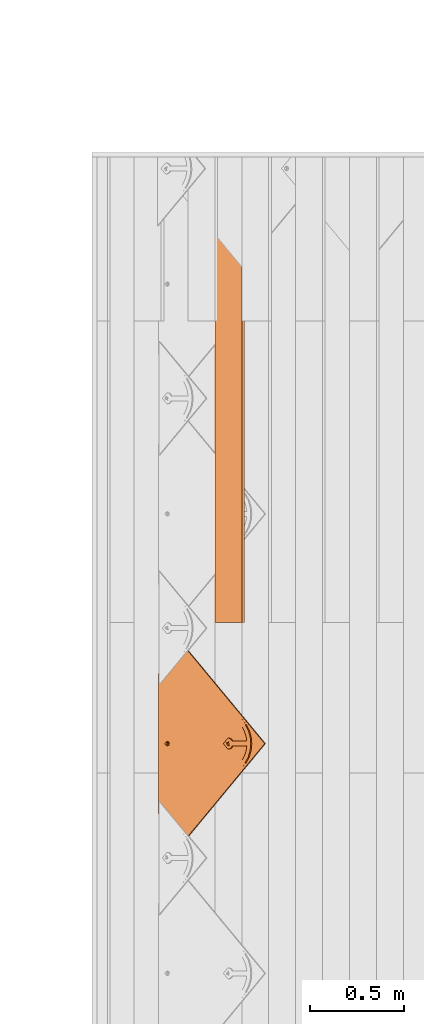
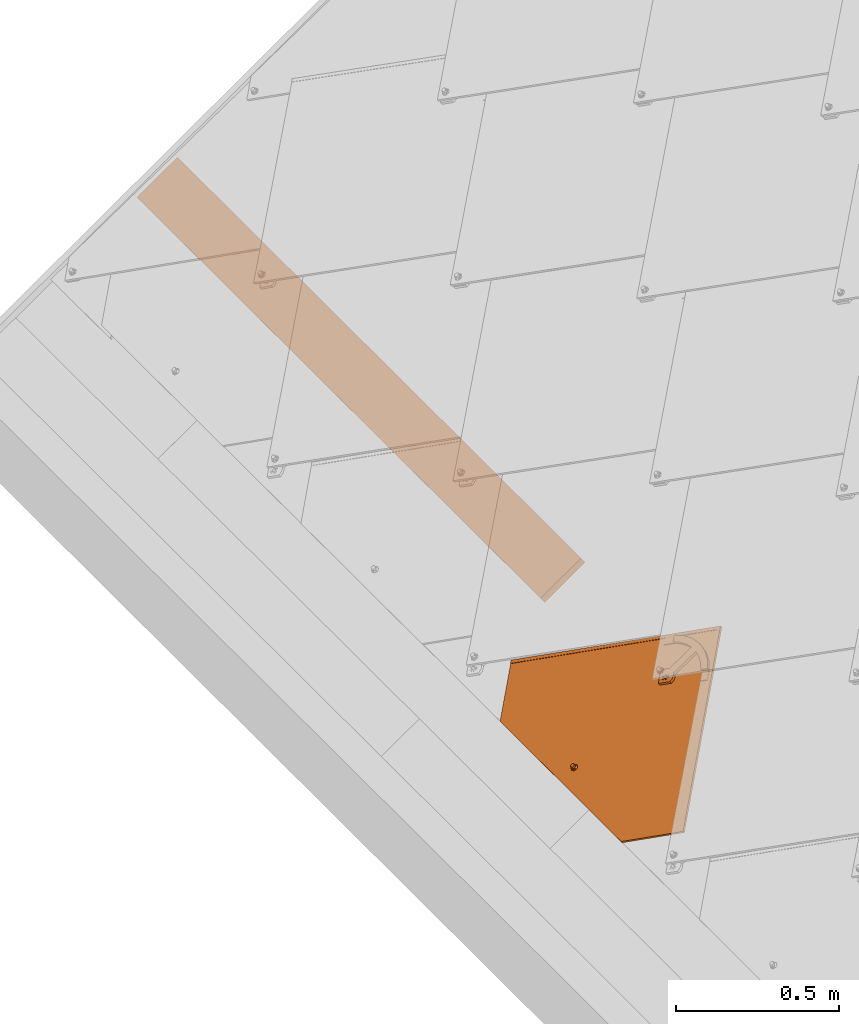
# One storey, part 50 of 133: 2 proxies, 1 element without a shape of its own.
"""IFC2X3 building model written with IfcOpenShell, lengths in millimetres."""

from ifc_helpers import new_model, entity, si_unit, converted_unit, derived_unit, direction, frame, frame_2d, origin, place, context, subcontext, project, spatial, rectangle, extrude, faceted_brep, source, transform, mapped, material, material_list, type_object, type_shapes, element, aggregate, save


model = new_model("IFC2X3")

# Units and contexts
model_context = context("Model", 3, precision=0.01, world=origin(), true_north=direction((6.12303176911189e-17, 1.0)))
body_context = subcontext(model_context, "Body", "Model", "MODEL_VIEW")
ifc_project = project(units=[si_unit("LENGTHUNIT", "METRE", prefix="MILLI"), si_unit("AREAUNIT", "SQUARE_METRE"), si_unit("VOLUMEUNIT", "CUBIC_METRE"), converted_unit("PLANEANGLEUNIT", "DEGREE", entity("IfcRatioMeasure", 0.0174532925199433), si_unit("PLANEANGLEUNIT", "RADIAN"), dimensions=[0, 0, 0, 0, 0, 0, 0]), si_unit("MASSUNIT", "GRAM", prefix="KILO"), derived_unit("MASSDENSITYUNIT", [(si_unit("MASSUNIT", "GRAM", prefix="KILO"), 1), (si_unit("LENGTHUNIT", "METRE"), -3)]), si_unit("TIMEUNIT", "SECOND"), si_unit("FREQUENCYUNIT", "HERTZ"), si_unit("THERMODYNAMICTEMPERATUREUNIT", "DEGREE_CELSIUS"), derived_unit("THERMALTRANSMITTANCEUNIT", [(si_unit("MASSUNIT", "GRAM", prefix="KILO"), 1), (si_unit("THERMODYNAMICTEMPERATUREUNIT", "KELVIN"), -1), (si_unit("TIMEUNIT", "SECOND"), -3)]), derived_unit("VOLUMETRICFLOWRATEUNIT", [(si_unit("LENGTHUNIT", "METRE"), 3), (si_unit("TIMEUNIT", "SECOND"), -1)]), si_unit("ELECTRICCURRENTUNIT", "AMPERE"), si_unit("ELECTRICVOLTAGEUNIT", "VOLT"), si_unit("POWERUNIT", "WATT"), si_unit("FORCEUNIT", "NEWTON", prefix="KILO"), si_unit("ILLUMINANCEUNIT", "LUX"), si_unit("LUMINOUSFLUXUNIT", "LUMEN"), si_unit("LUMINOUSINTENSITYUNIT", "CANDELA"), derived_unit("USERDEFINED", [(si_unit("MASSUNIT", "GRAM", prefix="KILO"), -1), (si_unit("LENGTHUNIT", "METRE"), -2), (si_unit("TIMEUNIT", "SECOND"), 3), (si_unit("LUMINOUSFLUXUNIT", "LUMEN"), 1)]), derived_unit("LINEARVELOCITYUNIT", [(si_unit("LENGTHUNIT", "METRE"), 1), (si_unit("TIMEUNIT", "SECOND"), -1)]), si_unit("PRESSUREUNIT", "PASCAL"), derived_unit("USERDEFINED", [(si_unit("LENGTHUNIT", "METRE"), -2), (si_unit("MASSUNIT", "GRAM", prefix="KILO"), 1), (si_unit("TIMEUNIT", "SECOND"), -2)])], contexts=[model_context])

# Site, building, storey
site_placement = place(None, origin())
site = spatial("IfcSite", under=ifc_project, at=site_placement, Name="Default", CompositionType="ELEMENT")
building_placement = place(site_placement, origin())
building = spatial("IfcBuilding", under=site, at=building_placement, CompositionType="ELEMENT")
storey_placement = place(building_placement, origin())
storey = spatial("IfcBuildingStorey", under=building, at=storey_placement, Name="Level 1", CompositionType="ELEMENT", Elevation=0.0)

# Assembly, proxy
assembly_placement = place(storey_placement, origin())
assembly = element("IfcElementAssembly", 1, at=assembly_placement, inside=storey, Name="Structural Framing Assembly:Roof Construction Assembly", ObjectType="Structural Framing Assembly:Roof Construction Assembly", AssemblyPlace="NOTDEFINED", PredefinedType="USERDEFINED")
ifc_material_1 = material(Name="Wood - Generic - Wood For Showcase")
building_element_proxy_type_1 = type_object("IfcBuildingElementProxyType", Name="Structural Framing 15", PredefinedType="NOTDEFINED", material=ifc_material_1)
shared_shape_1 = source(origin(), body_context, "Body", "SweptSolid", [
    extrude(rectangle(XDim=24.9999999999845, YDim=174.344679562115, at=frame_2d((-1.77635683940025e-13, -4.54747350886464e-13), x_axis=(0.0, 1.0))), frame((1128.20180147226, 1455.55080214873, 2760.23940055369), z_axis=(0.0, 1.0, 0.0), x_axis=(-0.819152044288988, 0.0, -0.573576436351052)), (0.0, 0.0, 1.0), 2469.99999999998),
])
type_shapes(building_element_proxy_type_1, [shared_shape_1])
proxy_1_placement = place(assembly_placement, frame((-3141.92561483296, 0.0, -2200.0)))
proxy_1 = element("IfcBuildingElementProxy", 2, at=proxy_1_placement, type_object=building_element_proxy_type_1, material=ifc_material_1, Name="Structural Framing 125:Structural Framing 15", ObjectType="Structural Framing 125:Structural Framing 15", context=body_context, shape_type="MappedRepresentation", body=[
    mapped(shared_shape_1, transform((0.0, 0.0, 0.0), scale=1.0)),
])
aggregate(assembly, [proxy_1])

# Proxy
ifc_material_2 = material(Name="Rubber - Sunstyle - Black")
ifc_material_3 = material(Name="Glass - Sunstyle - Tainted Black")
ifc_material_list_1 = material_list([ifc_material_2, ifc_material_3])
ifc_material_list_2 = material_list([ifc_material_2, ifc_material_3])
building_element_proxy_type_2 = type_object("IfcBuildingElementProxyType", Name="Shingle Bottom - Black", PredefinedType="NOTDEFINED", material=ifc_material_list_2)
shared_shape_2 = source(origin(), body_context, "Body", "Brep", [
    faceted_brep([(0.0, -1.79273515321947, -4.01619789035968), (-5.7742028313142, -5.12600528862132, -3.96037390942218), (-5.77420283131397, -4.75769619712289, 18.0314954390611), (0.0, -1.42442606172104, 17.9756714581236), (-5.77420283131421, -11.792545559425, -3.84872594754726), (-5.77420283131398, -11.4242364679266, 18.143143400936), (0.0, -15.1258156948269, -3.79290196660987), (0.0, -14.7575066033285, 18.1989673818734), (5.77420283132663, -11.7925455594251, -3.84872594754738), (5.77420283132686, -11.4242364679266, 18.1431434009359), (5.77420283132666, -5.12600528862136, -3.96037390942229), (5.77420283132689, -4.75769619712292, 18.031495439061), (-8.60370416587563, -16.6934641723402, 18.2313898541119), (0.0, -20.2567354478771, 18.2910657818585), (-12.1674751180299, -8.09096633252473, 18.0873194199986), (-8.60370416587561, 0.511531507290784, 17.9432489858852), (0.0, 4.07480278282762, 17.8835730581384), (8.60370416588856, 0.511531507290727, 17.9432489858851), (12.1674751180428, -8.09096633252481, 18.0873194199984), (8.60370416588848, -16.6934641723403, 18.2313898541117), (-11.4302228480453, -6.71737066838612, 20.4858706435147), (-9.77051349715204, -8.02009729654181, 22.3189355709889), (0.0, -0.706876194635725, 22.9603444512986), (0.0, 0.533621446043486, 22.3799978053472), (0.0, 2.69117229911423, 21.3706227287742), (-6.32324569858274, -4.35709193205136, 23.021476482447), (-6.32324569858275, -11.6575234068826, 23.1437405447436), (0.0, -18.7571148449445, 21.7298281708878), (0.0, -15.3077391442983, 23.2048725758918), (10.9851748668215, -11.808022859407, 20.3827540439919), (10.123850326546, -8.02413622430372, 22.0777687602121), (6.32324569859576, -4.3570919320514, 23.0214764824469), (6.32324569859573, -11.6575234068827, 23.1437405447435), (-6.32324569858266, -11.5234949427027, 31.146628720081), (0.0, -15.1737106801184, 31.2077607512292), (0.0, -7.8732792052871, 31.0854966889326), (-6.32324569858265, -4.22306346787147, 31.0243646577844), (6.32324569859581, -11.5234949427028, 31.1466287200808), (6.32324569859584, -4.22306346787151, 31.0243646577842), (0.0, -0.57284773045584, 30.963232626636), (0.0, -8.45927542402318, -3.90454992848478)], [[[0, 1, 2, 3]], [[1, 4, 5, 2]], [[4, 6, 7, 5]], [[6, 8, 9, 7]], [[8, 10, 11, 9]], [[10, 0, 3, 11]], [[12, 7, 13]], [[7, 12, 5]], [[14, 5, 12]], [[5, 14, 2]], [[15, 2, 14]], [[3, 2, 15]], [[15, 16, 3]], [[16, 17, 3]], [[11, 3, 17]], [[11, 17, 18]], [[9, 11, 18]], [[18, 19, 9]], [[7, 9, 19]], [[19, 13, 7]], [[15, 20, 16]], [[21, 22, 23, 24]], [[22, 21, 25]], [[20, 14, 12]], [[15, 14, 20]], [[25, 21, 26]], [[20, 24, 16]], [[12, 13, 27]], [[12, 27, 20]], [[21, 28, 26]], [[21, 27, 28]], [[20, 21, 24]], [[20, 27, 21]], [[19, 29, 13]], [[30, 23, 31]], [[30, 28, 27]], [[24, 23, 30]], [[29, 27, 13]], [[19, 18, 29]], [[29, 30, 27]], [[29, 17, 24]], [[24, 17, 16]], [[31, 32, 30]], [[23, 22, 31]], [[28, 30, 32]], [[29, 24, 30]], [[29, 18, 17]], [[33, 34, 35]], [[35, 36, 33]], [[34, 37, 35]], [[38, 35, 37]], [[35, 38, 39]], [[35, 39, 36]], [[40, 6, 4]], [[4, 1, 40]], [[1, 0, 40]], [[40, 8, 6]], [[0, 10, 40]], [[8, 40, 10]], [[22, 25, 36, 39]], [[25, 26, 33, 36]], [[26, 28, 34, 33]], [[28, 32, 37, 34]], [[32, 31, 38, 37]], [[31, 22, 39, 38]]]),
    faceted_brep([(0.0, 372.824876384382, 20.3195200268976), (0.0, 377.324245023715, 20.2441667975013), (-8.60370416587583, 376.388147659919, 20.2598440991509), (8.60370416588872, 376.388147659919, 20.2598440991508), (6.64022859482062, 381.157445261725, 20.1799702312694), (12.1674751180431, 384.990645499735, 20.1157736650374), (6.64022859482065, 388.823845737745, 20.0515770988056), (8.6037041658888, 393.59314333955, 19.9717032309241), (0.0, 392.657045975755, 19.9873805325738), (0.0, 397.156414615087, 19.9120273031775), (-8.60370416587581, 393.59314333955, 19.9717032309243), (-6.64022859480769, 388.823845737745, 20.0515770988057), (-12.1674751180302, 384.990645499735, 20.1157736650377), (-6.6402285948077, 381.157445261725, 20.1799702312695), (-6.6402282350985, 388.555922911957, 4.05382046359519), (0.0, 392.389122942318, 3.98962390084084), (-6.64022823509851, 380.889522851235, 4.18221358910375), (0.0, 377.056322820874, 4.24641015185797), (6.64022823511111, 380.889522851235, 4.18221358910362), (6.64022823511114, 388.555922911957, 4.05382046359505), (-8.603704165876, 376.12022504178, 4.26208746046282), (0.0, 372.556953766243, 4.32176338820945), (-12.1674751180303, 384.722722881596, 4.11801702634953), (-8.60370416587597, 393.325220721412, 3.97394659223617), (0.0, 396.888491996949, 3.91427066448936), (8.60370416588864, 393.325220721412, 3.97394659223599), (12.1674751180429, 384.722722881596, 4.11801702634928), (8.60370416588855, 376.12022504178, 4.26208746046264)], [[[0, 1, 2]], [[1, 0, 3]], [[3, 4, 1]], [[4, 3, 5]], [[6, 4, 5]], [[5, 7, 6]], [[7, 8, 6]], [[8, 7, 9]], [[8, 9, 10]], [[10, 11, 8]], [[12, 11, 10]], [[2, 13, 12]], [[12, 13, 11]], [[13, 2, 1]], [[8, 11, 14, 15]], [[11, 13, 16, 14]], [[13, 1, 17, 16]], [[1, 4, 18, 17]], [[4, 6, 19, 18]], [[6, 8, 15, 19]], [[20, 17, 21]], [[17, 20, 16]], [[22, 16, 20]], [[14, 16, 22]], [[23, 14, 22]], [[15, 14, 23]], [[23, 24, 15]], [[24, 25, 15]], [[19, 15, 25]], [[19, 25, 26]], [[26, 18, 19]], [[26, 27, 18]], [[17, 18, 27]], [[27, 21, 17]], [[24, 23, 10, 9]], [[10, 23, 22, 12]], [[20, 21, 0, 2]], [[20, 2, 12, 22]], [[21, 27, 3, 0]], [[3, 27, 26, 5]], [[25, 24, 9, 7]], [[25, 7, 5, 26]]]),
    faceted_brep([(518.247351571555, 79.9143812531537, 14.965257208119), (526.732038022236, 88.3990677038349, 14.8231598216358), (526.732038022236, 88.4241854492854, 16.3229495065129), (518.247351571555, 79.9394989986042, 16.4650468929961), (0.000322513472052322, 598.016093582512, 6.28834266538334), (-518.246706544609, 79.9143812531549, 14.9652572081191), (-526.73139299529, 88.3990677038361, 14.8231598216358), (0.000322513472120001, 614.983087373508, 6.00418773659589), (0.000322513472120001, 615.008205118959, 7.50397742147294), (-526.731392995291, 88.4241854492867, 16.3229495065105), (-518.246706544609, 79.9394989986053, 16.465046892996), (0.000322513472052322, 598.041211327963, 7.78813235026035)], [[[0, 1, 2, 3]], [[1, 0, 4, 5, 6, 7]], [[2, 1, 7, 8]], [[3, 2, 8, 9, 10, 11]], [[0, 3, 11, 4]], [[5, 10, 9, 6]], [[8, 7, 6, 9]], [[4, 11, 10, 5]]]),
    faceted_brep([(0.00032251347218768, 614.983087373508, 6.00418773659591), (-2.87802047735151, 396.187349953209, 9.66847193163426), (0.227808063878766, 396.596182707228, 9.6616250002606), (-5.77219193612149, 394.988712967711, 9.68854611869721), (3.3336366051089, 396.187349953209, 9.66847193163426), (6.22780806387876, 394.988712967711, 9.6885461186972), (8.71308943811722, 393.081956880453, 9.72047953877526), (10.620112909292, 390.59702396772, 9.76209598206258), (-8.25747331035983, 393.081956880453, 9.72047953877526), (-10.1644967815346, 390.59702396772, 9.76209598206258), (-11.3633018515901, 387.703258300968, 9.81055935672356), (-526.731392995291, 88.3990677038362, 14.8231598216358), (11.8189179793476, 387.703258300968, 9.81055935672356), (526.732038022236, 88.3990677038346, 14.8231598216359), (-11.7721919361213, 384.597865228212, 9.86256696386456), (-11.3633018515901, 381.492472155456, 9.91457457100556), (-10.1644967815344, 378.598706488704, 9.96303794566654), (-370.355016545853, -67.9334607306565, 17.4413406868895), (-8.25747331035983, 376.113773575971, 10.0046543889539), (-5.65685424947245, -2.29422365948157, 16.3420467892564), (-6.92820323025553, -3.95084560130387, 16.3697910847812), (-7.72740661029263, -5.88002271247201, 16.4021000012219), (-8.0, -7.95028476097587, 16.4367717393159), (-7.72740661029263, -10.0205468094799, 16.4714434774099), (-6.9282032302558, -11.9497239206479, 16.5037523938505), (-5.65685424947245, -13.6063458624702, 16.5314966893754), (-4.0, -14.8775165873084, 16.5527856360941), (-2.07055236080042, -15.676607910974, 16.5661684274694), (0.0, -15.9491630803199, 16.5707330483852), (370.355661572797, -67.9334607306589, 17.4413406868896), (10.620112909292, 378.598706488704, 9.96303794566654), (8.71308943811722, 376.11377357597, 10.0046543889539), (5.65685424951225, -2.29422365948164, 16.3420467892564), (6.92820323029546, -3.9508456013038, 16.3697910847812), (7.72740661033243, -5.88002271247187, 16.4021000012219), (8.0, -7.9502847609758, 16.4367717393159), (7.72740661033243, -10.0205468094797, 16.4714434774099), (6.92820323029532, -11.9497239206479, 16.5037523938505), (5.65685424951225, -13.6063458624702, 16.5314966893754), (4.0, -14.8775165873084, 16.5527856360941), (2.07055236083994, -15.676607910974, 16.5661684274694), (-5.77219193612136, 374.207017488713, 10.0365878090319), (-4.0, -1.02305293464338, 16.3207578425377), (-2.87802047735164, 373.008380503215, 10.0566619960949), (-2.07055236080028, -0.223961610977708, 16.3073750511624), (0.227808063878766, 372.599547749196, 10.0635089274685), (0.0, 0.0485935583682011, 16.3028104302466), (2.07055236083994, -0.223961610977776, 16.3073750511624), (3.3336366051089, 373.008380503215, 10.0566619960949), (4.0, -1.02305293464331, 16.3207578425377), (6.22780806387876, 374.207017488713, 10.0365878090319), (12.2278080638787, 384.597865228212, 9.86256696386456), (11.8189179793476, 381.492472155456, 9.91457457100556), (-370.355016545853, -68.059049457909, 9.94239226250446), (-6.92820323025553, -4.07643432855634, 8.87084266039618), (-7.72740661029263, -6.00561143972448, 8.90315157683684), (-8.0, -8.07587348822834, 8.93782331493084), (-7.72740661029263, -10.1461355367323, 8.97249505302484), (-6.9282032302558, -12.0753126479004, 9.00480396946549), (-5.65685424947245, -13.7319345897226, 9.03254826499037), (-5.65685424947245, -2.41981238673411, 8.8430983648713), (-8.25747331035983, 375.988184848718, 2.50570596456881), (-4.0, -15.0031053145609, 9.05383721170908), (-2.07055236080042, -15.8021966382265, 9.06722000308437), (0.0, -16.0747518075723, 9.07178462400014), (370.355661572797, -68.0590494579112, 9.9423922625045), (-10.1644967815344, 378.473117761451, 2.46408952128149), (-526.731392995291, 88.2734789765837, 7.32421139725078), (-11.3633018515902, 381.366883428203, 2.41562614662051), (-11.7721919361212, 384.472276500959, 2.36361853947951), (-11.3633018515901, 387.577669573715, 2.3116109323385), (0.00032251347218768, 614.857498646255, -1.49476068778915), (-10.1644967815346, 390.471435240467, 2.26314755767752), (-8.25747331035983, 392.956368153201, 2.22153111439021), (-5.77219193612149, 394.863124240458, 2.18959769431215), (-2.87802047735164, 396.061761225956, 2.16952350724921), (0.227808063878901, 396.470593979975, 2.16267657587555), (3.3336366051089, 396.061761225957, 2.1695235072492), (6.22780806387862, 394.863124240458, 2.18959769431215), (8.71308943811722, 392.956368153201, 2.2215311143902), (10.620112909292, 390.471435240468, 2.26314755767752), (11.8189179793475, 387.577669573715, 2.31161093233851), (526.732038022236, 88.2734789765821, 7.32421139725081), (12.2278080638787, 384.472276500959, 2.3636185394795), (10.620112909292, 378.473117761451, 2.46408952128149), (11.8189179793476, 381.366883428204, 2.41562614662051), (-5.77219193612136, 374.08142876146, 2.53763938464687), (-4.0, -1.14864166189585, 8.8218094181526), (-2.87802047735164, 372.882791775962, 2.55771357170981), (-2.07055236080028, -0.349550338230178, 8.8084266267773), (0.227808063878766, 372.473959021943, 2.56456050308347), (0.0, -0.0769951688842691, 8.80386200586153), (2.07055236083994, -0.349550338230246, 8.8084266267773), (3.3336366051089, 372.882791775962, 2.55771357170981), (4.0, -1.14864166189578, 8.8218094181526), (6.22780806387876, 374.081428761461, 2.53763938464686), (5.65685424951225, -2.41981238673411, 8.8430983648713), (8.71308943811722, 375.988184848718, 2.50570596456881), (6.92820323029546, -4.07643432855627, 8.87084266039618), (7.72740661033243, -6.00561143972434, 8.90315157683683), (8.0, -8.07587348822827, 8.93782331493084), (7.72740661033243, -10.1461355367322, 8.97249505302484), (6.92820323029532, -12.0753126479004, 9.00480396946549), (5.65685424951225, -13.7319345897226, 9.03254826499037), (4.0, -15.0031053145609, 9.05383721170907), (2.07055236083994, -15.8021966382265, 9.06722000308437)], [[[0, 1, 2]], [[1, 0, 3]], [[0, 2, 4]], [[4, 5, 0]], [[5, 6, 0]], [[0, 6, 7]], [[8, 3, 0]], [[9, 8, 0]], [[9, 0, 10]], [[10, 0, 11]], [[12, 0, 7]], [[12, 13, 0]], [[11, 14, 10]], [[14, 11, 15]], [[16, 15, 11]], [[11, 17, 16]], [[16, 17, 18]], [[19, 18, 17]], [[19, 17, 20]], [[20, 17, 21]], [[22, 21, 17]], [[22, 17, 23]], [[24, 23, 17]], [[17, 25, 24]], [[26, 25, 17]], [[27, 26, 17]], [[17, 28, 27]], [[28, 17, 29]], [[29, 13, 30]], [[29, 30, 31]], [[29, 31, 32]], [[32, 33, 29]], [[33, 34, 29]], [[35, 29, 34]], [[29, 35, 36]], [[36, 37, 29]], [[29, 37, 38]], [[38, 39, 29]], [[40, 28, 29]], [[39, 40, 29]], [[41, 18, 19]], [[42, 41, 19]], [[42, 43, 41]], [[44, 43, 42]], [[44, 45, 43]], [[46, 45, 44]], [[47, 45, 46]], [[48, 45, 47]], [[49, 48, 47]], [[49, 50, 48]], [[32, 50, 49]], [[32, 31, 50]], [[12, 51, 13]], [[52, 13, 51]], [[13, 52, 30]], [[53, 54, 55]], [[53, 55, 56]], [[56, 57, 53]], [[57, 58, 53]], [[53, 58, 59]], [[60, 54, 53]], [[61, 60, 53]], [[59, 62, 53]], [[62, 63, 53]], [[63, 64, 53]], [[53, 64, 65]], [[66, 61, 53]], [[66, 53, 67]], [[68, 66, 67]], [[69, 68, 67]], [[69, 67, 70]], [[67, 71, 70]], [[72, 70, 71]], [[73, 72, 71]], [[71, 74, 73]], [[74, 71, 75]], [[75, 71, 76]], [[77, 76, 71]], [[77, 71, 78]], [[79, 78, 71]], [[71, 80, 79]], [[80, 71, 81]], [[71, 82, 81]], [[83, 81, 82]], [[84, 82, 65]], [[85, 82, 84]], [[82, 85, 83]], [[86, 60, 61]], [[86, 87, 60]], [[88, 87, 86]], [[89, 87, 88]], [[90, 89, 88]], [[90, 91, 89]], [[92, 91, 90]], [[92, 90, 93]], [[94, 92, 93]], [[93, 95, 94]], [[94, 95, 96]], [[97, 96, 95]], [[96, 97, 65]], [[84, 65, 97]], [[98, 96, 65]], [[99, 98, 65]], [[99, 65, 100]], [[101, 100, 65]], [[102, 101, 65]], [[103, 102, 65]], [[104, 103, 65]], [[105, 104, 65]], [[65, 64, 105]], [[11, 0, 71, 67]], [[17, 11, 67, 53]], [[13, 29, 65, 82]], [[0, 13, 82, 71]], [[22, 56, 55, 21]], [[21, 55, 54, 20]], [[42, 19, 60, 87]], [[60, 19, 20, 54]], [[44, 42, 87, 89]], [[44, 89, 91, 46]], [[46, 91, 92, 47]], [[47, 92, 94, 49]], [[33, 32, 96, 98]], [[96, 32, 49, 94]], [[34, 33, 98, 99]], [[34, 99, 100, 35]], [[35, 100, 101, 36]], [[36, 101, 102, 37]], [[39, 38, 103, 104]], [[103, 38, 37, 102]], [[40, 39, 104, 105]], [[40, 105, 64, 28]], [[28, 64, 63, 27]], [[27, 63, 62, 26]], [[24, 25, 59, 58]], [[59, 25, 26, 62]], [[23, 24, 58, 57]], [[23, 57, 56, 22]], [[14, 69, 70, 10]], [[10, 70, 72, 9]], [[3, 8, 73, 74]], [[73, 8, 9, 72]], [[1, 3, 74, 75]], [[1, 75, 76, 2]], [[2, 76, 77, 4]], [[4, 77, 78, 5]], [[7, 6, 79, 80]], [[79, 6, 5, 78]], [[12, 7, 80, 81]], [[12, 81, 83, 51]], [[51, 83, 85, 52]], [[52, 85, 84, 30]], [[50, 31, 97, 95]], [[97, 31, 30, 84]], [[48, 50, 95, 93]], [[48, 93, 90, 45]], [[45, 90, 88, 43]], [[43, 88, 86, 41]], [[16, 18, 61, 66]], [[41, 86, 61, 18]], [[68, 15, 16, 66]], [[15, 68, 69, 14]], [[29, 17, 53, 65]]]),
    faceted_brep([(-111.269043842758, 451.472531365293, 11.2429332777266), (-84.9443960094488, 477.793488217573, 10.8021227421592), (-102.027571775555, 494.874268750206, 10.5160621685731), (-108.279973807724, 489.512620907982, 10.6058564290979), (-114.2509690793, 483.839345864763, 10.7008696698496), (-128.946713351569, 469.147722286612, 10.9469178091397), (128.946713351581, 469.147722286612, 10.9469178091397), (114.250969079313, 483.839345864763, 10.7008696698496), (108.279973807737, 489.512620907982, 10.6058564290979), (102.027571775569, 494.874268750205, 10.5160621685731), (84.9431983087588, 477.794685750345, 10.802102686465), (111.269043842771, 451.472531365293, 11.2429332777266), (-8.48528137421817, 393.302959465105, 19.7181805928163), (-18.7041061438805, 407.484939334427, 19.4806677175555), (-23.2046504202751, 402.851933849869, 19.5582590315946), (-10.3923048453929, 390.818026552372, 19.7597970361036), (-6.0, 395.209715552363, 19.6862471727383), (-13.2999999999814, 411.02298750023, 19.4214142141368), (-3.10582854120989, 396.408352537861, 19.6661729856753), (0.0, 396.81718529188, 19.6593260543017), (13.3000000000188, 411.022987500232, 19.4214142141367), (3.10582854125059, 396.408352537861, 19.6661729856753), (6.0, 395.209715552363, 19.6862471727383), (18.7041061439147, 407.484939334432, 19.4806677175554), (8.48528137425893, 393.302959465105, 19.7181805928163), (23.2046504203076, 402.85193384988, 19.5582590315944), (10.3923048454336, 390.818026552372, 19.7597970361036), (26.5842195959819, 397.347783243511, 19.6504398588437), (11.5911099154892, 387.92426088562, 19.8082604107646), (28.6795527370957, 391.238383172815, 19.752757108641), (12.0, 384.818867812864, 19.8602680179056), (29.3894280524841, 384.818867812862, 19.8602680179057), (11.5911099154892, 381.713474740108, 19.9122756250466), (10.3923048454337, 378.819709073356, 19.9607389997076), (8.48528137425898, 376.334776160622, 20.0023554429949), (0.0, 355.433560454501, 20.3523987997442), (6.0, 374.428020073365, 20.034288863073), (3.10582854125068, 373.229383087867, 20.0543630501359), (0.0, 372.820550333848, 20.0612099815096), (-3.10582854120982, 373.229383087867, 20.0543630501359), (-6.0, 374.428020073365, 20.034288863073), (-8.48528137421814, 376.334776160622, 20.0023554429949), (-29.3894280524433, 384.818867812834, 19.8602680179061), (-10.3923048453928, 378.819709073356, 19.9607389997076), (-11.5911099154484, 381.713474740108, 19.9122756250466), (-12.0, 384.818867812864, 19.8602680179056), (-28.67955273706, 391.238383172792, 19.7527571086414), (-11.5911099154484, 387.92426088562, 19.8082604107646), (-26.5842195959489, 397.347783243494, 19.650439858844), (-13.2999999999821, 505.810987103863, 17.833951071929), (13.3000000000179, 505.810987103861, 17.833951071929), (0.0, 531.282600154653, 17.4073649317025), (36.4908407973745, 527.108634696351, 17.4772684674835), (38.7697427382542, 500.996106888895, 17.9145883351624), (71.096085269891, 514.802420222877, 17.6833669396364), (62.9243331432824, 491.592473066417, 18.0720758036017), (102.027571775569, 494.999857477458, 18.0150105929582), (84.9443960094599, 477.919076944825, 18.3010711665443), (-36.4908407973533, 527.108634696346, 17.4772684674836), (-38.7697427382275, 500.996106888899, 17.9145883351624), (-71.0960852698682, 514.802420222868, 17.6833669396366), (-62.9243331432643, 491.592473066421, 18.0720758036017), (-102.027571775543, 494.999857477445, 18.0150105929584), (-84.9443960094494, 477.919076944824, 18.3010711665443), (0.0, 355.266108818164, 10.3538009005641), (0.0, 372.653098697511, 10.0626120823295), (3.10582854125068, 373.06193145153, 10.0557651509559), (-3.10582854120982, 373.06193145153, 10.0557651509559), (6.0, 374.260568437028, 10.0356909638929), (8.48528137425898, 376.167324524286, 10.0037575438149), (29.3894280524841, 384.651416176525, 9.86167011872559), (-6.0, 374.260568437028, 10.0356909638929), (-8.48528137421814, 376.167324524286, 10.0037575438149), (-29.3894280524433, 384.651416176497, 9.86167011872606), (-10.3923048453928, 378.652257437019, 9.96214110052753), (-11.5911099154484, 381.546023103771, 9.91367772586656), (-12.0, 384.651416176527, 9.86167011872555), (-28.67955273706, 391.070931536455, 9.75415920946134), (-11.5911099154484, 387.756809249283, 9.80966251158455), (-26.5842195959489, 397.180331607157, 9.65184195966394), (-10.3923048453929, 390.650574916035, 9.76119913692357), (-23.2046504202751, 402.684482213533, 9.5596611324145), (-8.48528137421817, 393.135507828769, 9.71958269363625), (-18.7041061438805, 407.31748769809, 9.48206981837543), (-6.0, 395.042263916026, 9.6876492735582), (-13.2999999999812, 410.855535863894, 9.4228163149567), (-3.10582854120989, 396.240900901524, 9.66757508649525), (0.0, 396.649733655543, 9.66072815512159), (13.3000000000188, 410.855535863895, 9.42281631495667), (-13.2999999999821, 505.643535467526, 7.83535317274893), (13.3000000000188, 505.643535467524, 7.83535317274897), (0.0, 531.115148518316, 7.4087670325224), (-36.4908407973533, 526.94118306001, 7.47867056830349), (-38.7697427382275, 500.828655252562, 7.91599043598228), (-71.0960852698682, 514.634968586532, 7.68476904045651), (-62.9243331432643, 491.425021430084, 8.07347790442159), (-102.027571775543, 494.832405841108, 8.01641269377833), (-84.9431983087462, 477.752822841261, 8.30245321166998), (-108.279973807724, 489.470757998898, 8.10620695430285), (-114.2509690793, 483.79748295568, 8.2012201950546), (-111.269043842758, 451.430668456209, 8.74328380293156), (-128.946713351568, 469.105859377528, 8.44726833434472), (36.4908407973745, 526.941183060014, 7.47867056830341), (38.7697427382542, 500.828655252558, 7.91599043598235), (71.096085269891, 514.634968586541, 7.68476904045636), (62.9243331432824, 491.425021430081, 8.07347790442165), (102.027571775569, 494.832405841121, 8.01641269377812), (84.9443960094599, 477.751625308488, 8.30247326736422), (108.279973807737, 489.470757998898, 8.10620695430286), (114.250969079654, 483.797482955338, 8.20122019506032), (111.269043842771, 451.430668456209, 8.74328380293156), (128.946713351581, 469.105859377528, 8.44726833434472), (3.10582854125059, 396.240900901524, 9.66757508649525), (6.0, 395.042263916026, 9.6876492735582), (18.7041061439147, 407.317487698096, 9.48206981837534), (8.48528137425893, 393.135507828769, 9.71958269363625), (23.2046504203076, 402.684482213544, 9.55966113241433), (10.3923048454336, 390.650574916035, 9.76119913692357), (26.5842195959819, 397.180331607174, 9.65184195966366), (11.5911099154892, 387.756809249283, 9.80966251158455), (28.6795527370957, 391.070931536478, 9.75415920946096), (12.0, 384.651416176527, 9.86167011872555), (11.5911099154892, 381.546023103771, 9.91367772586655), (10.3923048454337, 378.652257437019, 9.96214110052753)], [[[0, 1, 2, 3, 4, 5]], [[6, 7, 8, 9, 10, 11]], [[12, 13, 14]], [[15, 12, 14]], [[16, 13, 12]], [[13, 16, 17]], [[17, 16, 18]], [[18, 19, 17]], [[20, 17, 19]], [[19, 21, 20]], [[22, 20, 21]], [[22, 23, 20]], [[22, 24, 23]], [[25, 23, 24]], [[26, 25, 24]], [[25, 26, 27]], [[26, 28, 27]], [[29, 27, 28]], [[28, 30, 29]], [[31, 29, 30]], [[30, 32, 31]], [[32, 33, 31]], [[31, 33, 34]], [[34, 35, 31]], [[34, 36, 35]], [[37, 35, 36]], [[38, 35, 37]], [[35, 38, 39]], [[40, 35, 39]], [[40, 41, 35]], [[42, 35, 41]], [[43, 42, 41]], [[43, 44, 42]], [[44, 45, 42]], [[45, 46, 42]], [[46, 45, 47]], [[48, 46, 47]], [[47, 15, 48]], [[48, 15, 14]], [[20, 49, 17]], [[49, 20, 50]], [[51, 49, 50]], [[50, 52, 51]], [[53, 52, 50]], [[52, 53, 54]], [[55, 54, 53]], [[54, 55, 56]], [[55, 57, 56]], [[58, 49, 51]], [[49, 58, 59]], [[60, 59, 58]], [[60, 61, 59]], [[61, 60, 62]], [[61, 62, 63]], [[64, 65, 66]], [[65, 64, 67]], [[64, 66, 68]], [[68, 69, 64]], [[64, 69, 70]], [[71, 67, 64]], [[71, 64, 72]], [[72, 64, 73]], [[73, 74, 72]], [[74, 73, 75]], [[76, 75, 73]], [[77, 76, 73]], [[76, 77, 78]], [[78, 77, 79]], [[80, 78, 79]], [[81, 80, 79]], [[82, 80, 81]], [[81, 83, 82]], [[83, 84, 82]], [[84, 83, 85]], [[85, 86, 84]], [[87, 86, 85]], [[87, 85, 88]], [[88, 85, 89]], [[88, 89, 90]], [[89, 91, 90]], [[91, 89, 92]], [[93, 92, 89]], [[94, 92, 93]], [[93, 95, 94]], [[95, 96, 94]], [[97, 96, 95]], [[98, 96, 97]], [[99, 98, 97]], [[97, 100, 99]], [[101, 99, 100]], [[102, 90, 91]], [[90, 102, 103]], [[104, 103, 102]], [[103, 104, 105]], [[105, 104, 106]], [[107, 105, 106]], [[107, 106, 108]], [[109, 107, 108]], [[110, 107, 109]], [[111, 110, 109]], [[87, 88, 112]], [[113, 112, 88]], [[114, 113, 88]], [[115, 113, 114]], [[115, 114, 116]], [[116, 117, 115]], [[116, 118, 117]], [[117, 118, 119]], [[119, 118, 120]], [[121, 119, 120]], [[120, 70, 121]], [[122, 121, 70]], [[70, 69, 123]], [[123, 122, 70]], [[17, 49, 89, 85]], [[13, 17, 85, 83]], [[14, 13, 83, 81]], [[81, 79, 48, 14]], [[46, 48, 79, 77]], [[42, 46, 77, 73]], [[35, 42, 73, 64]], [[31, 35, 64, 70]], [[29, 31, 70, 120]], [[27, 29, 120, 118]], [[118, 116, 25, 27]], [[23, 25, 116, 114]], [[20, 23, 114, 88]], [[50, 20, 88, 90]], [[9, 106, 104, 54, 56]], [[52, 54, 104, 102]], [[51, 52, 102, 91]], [[58, 51, 91, 92]], [[94, 96, 2, 62, 60]], [[60, 58, 92, 94]], [[45, 76, 78, 47]], [[47, 78, 80, 15]], [[16, 12, 82, 84]], [[80, 82, 12, 15]], [[18, 16, 84, 86]], [[87, 19, 18, 86]], [[21, 112, 113, 22]], [[22, 113, 115, 24]], [[28, 26, 117, 119]], [[115, 117, 26, 24]], [[30, 28, 119, 121]], [[21, 19, 87, 112]], [[30, 121, 122, 32]], [[32, 122, 123, 33]], [[36, 34, 69, 68]], [[123, 69, 34, 33]], [[37, 36, 68, 66]], [[65, 38, 37, 66]], [[39, 67, 71, 40]], [[40, 71, 72, 41]], [[44, 43, 74, 75]], [[72, 74, 43, 41]], [[45, 44, 75, 76]], [[39, 38, 65, 67]], [[7, 6, 111, 109]], [[6, 11, 110, 111]], [[7, 109, 108, 8]], [[108, 106, 9, 8]], [[11, 10, 107, 110]], [[0, 5, 101, 100]], [[1, 0, 100, 97]], [[2, 96, 98, 3]], [[98, 99, 4, 3]], [[5, 4, 99, 101]], [[63, 62, 2, 1]], [[56, 57, 10]], [[10, 9, 56]], [[1, 95, 61, 63]], [[1, 97, 95]], [[93, 89, 49, 59]], [[95, 93, 59, 61]], [[90, 103, 53, 50]], [[103, 105, 55, 53]], [[10, 57, 55]], [[107, 10, 105]], [[55, 105, 10]]]),
])
type_shapes(building_element_proxy_type_2, [shared_shape_2])
proxy_2_placement = place(storey_placement, frame((-2327.24013143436, 812.495871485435, 355.972593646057), z_axis=(-0.57357643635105, 0.0, 0.819152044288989), x_axis=(0.0, -1.0, 0.0)))
element("IfcBuildingElementProxy", 3, at=proxy_2_placement, inside=storey, type_object=building_element_proxy_type_2, material=ifc_material_list_1, Name="Roofing_Panels_SunStyle_Tile_Shingle-Bottom:Shingle Bottom - Black", ObjectType="Roofing_Panels_SunStyle_Tile_Shingle-Bottom:Shingle Bottom - Black", context=body_context, shape_type="MappedRepresentation", body=[
    mapped(shared_shape_2, transform((0.0, 0.0, 0.0), scale=1.0)),
])

save(model, "model.ifc")
